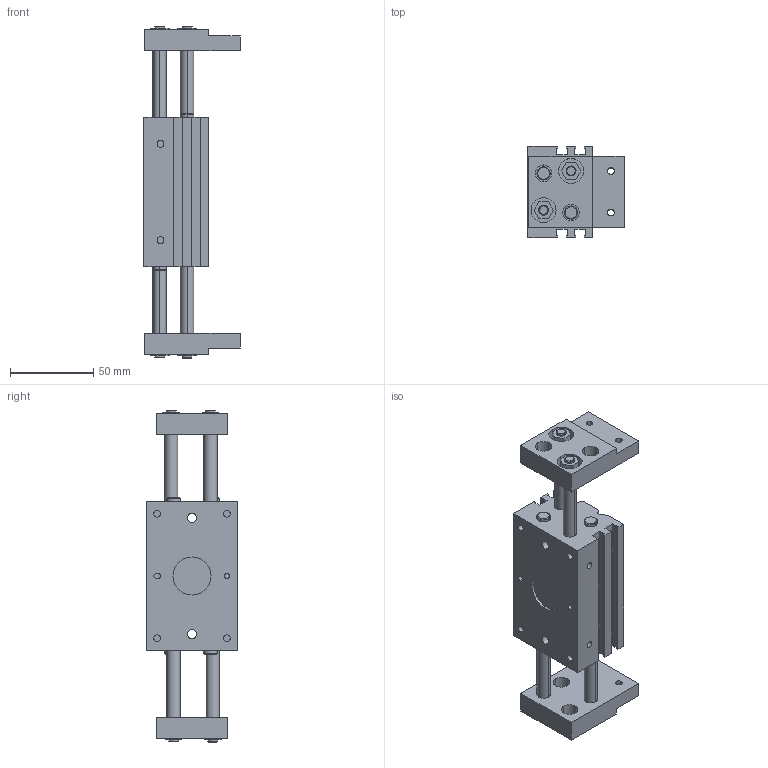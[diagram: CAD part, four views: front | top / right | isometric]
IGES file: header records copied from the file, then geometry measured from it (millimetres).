
Global section: file name: No Iges File Name specified; native system: AutoDesk Inventor R11.0; preprocessor: AutoDesk Inventor Iges Exporter R11.0; author: No Author specified; organization: No Organization specified; date: 20070224.105314; units: millimetre
Bounding box: 58 x 55 x 200 mm (x, y, z)
Volume: 235288.8 mm3; surface area: 68815.4 mm2
Topology: 3 solids, 3 shells, 203 faces, 494 edges, 324 vertices
Faces by surface type: plane 101, bspline 56, cylinder 16, cone 16, revolution 14
